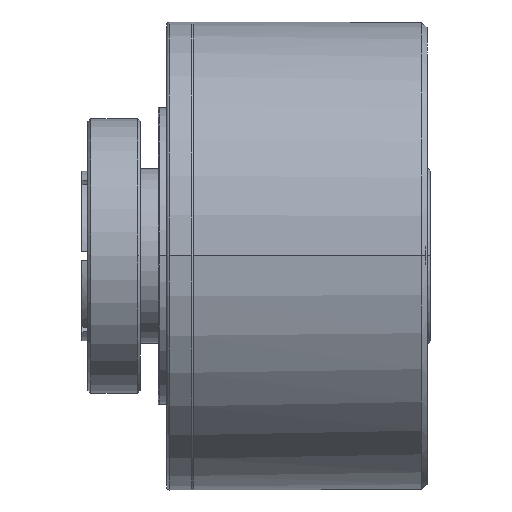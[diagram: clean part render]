
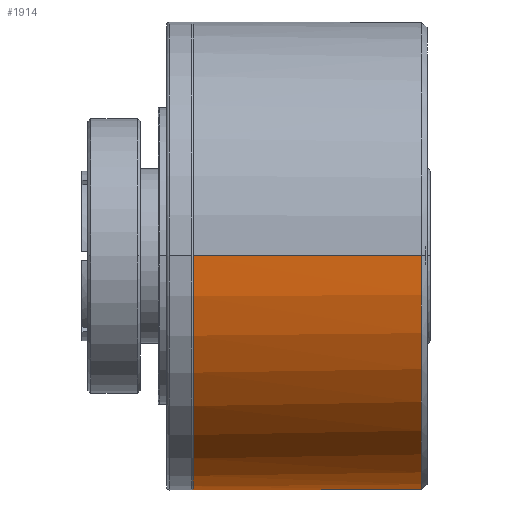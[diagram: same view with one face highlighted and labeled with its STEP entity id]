
A CAD part, top view. The second image highlights one B-rep face of the part: STEP entity #1914.
In plain terms, the highlighted cylindrical face has radius 40 mm (diameter 80 mm), a partial arc.
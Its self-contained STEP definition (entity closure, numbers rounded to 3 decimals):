
#1914=ADVANCED_FACE('',(#5602),#5603,.T.);
#5602=FACE_OUTER_BOUND('',#11202,.T.);
#5603=CYLINDRICAL_SURFACE('',#11203,40.);
#11202=EDGE_LOOP('',(#19523,#19524,#19525,#19526,#19527,#19528,#19529,#19530));
#11203=AXIS2_PLACEMENT_3D('',#19531,#19532,#19533);
#19523=ORIENTED_EDGE('',*,*,#35612,.F.);
#19524=ORIENTED_EDGE('',*,*,#35613,.F.);
#19525=ORIENTED_EDGE('',*,*,#35614,.F.);
#19526=ORIENTED_EDGE('',*,*,#35615,.F.);
#19527=ORIENTED_EDGE('',*,*,#35616,.F.);
#19528=ORIENTED_EDGE('',*,*,#35617,.F.);
#19529=ORIENTED_EDGE('',*,*,#35618,.F.);
#19530=ORIENTED_EDGE('',*,*,#35619,.T.);
#19531=CARTESIAN_POINT('',(28.208,0.,0.));
#19532=DIRECTION('',(1.0,0.,0.));
#19533=DIRECTION('',(0.,0.,-1.0));
#35612=EDGE_CURVE('',#42137,#42138,#42139,.T.);
#35613=EDGE_CURVE('',#42140,#42137,#42141,.T.);
#35614=EDGE_CURVE('',#42142,#42140,#42143,.T.);
#35615=EDGE_CURVE('',#42144,#42142,#42145,.T.);
#35616=EDGE_CURVE('',#42146,#42144,#42147,.T.);
#35617=EDGE_CURVE('',#42093,#42146,#42148,.T.);
#35618=EDGE_CURVE('',#42149,#42093,#42150,.T.);
#35619=EDGE_CURVE('',#42149,#42138,#42151,.T.);
#42093=VERTEX_POINT('',#51577);
#42137=VERTEX_POINT('',#51684);
#42138=VERTEX_POINT('',#51685);
#42139=LINE('',#51686,#51687);
#42140=VERTEX_POINT('',#51688);
#42141=CIRCLE('',#51689,40.);
#42142=VERTEX_POINT('',#51690);
#42143=B_SPLINE_CURVE_WITH_KNOTS('',3,(#51691,#51692,#51693,#51694,#51695,#51696,#51697,#51698,#51699,#51700,#51701,#51702,#51703,#51704,#51705,#51706,#51707,#51708,#51709),.UNSPECIFIED.,.F.,.F.,(4,3,3,3,3,3,4),(0.0,1.09,2.161,3.341,5.754,7.548,8.641),.UNSPECIFIED.);
#42144=VERTEX_POINT('',#51710);
#42145=ELLIPSE('',#51711,3280.244,40.);
#42146=VERTEX_POINT('',#51712);
#42147=B_SPLINE_CURVE_WITH_KNOTS('',3,(#51713,#51714,#51715,#51716,#51717,#51718,#51719,#51720,#51721,#51722),.UNSPECIFIED.,.F.,.F.,(4,3,3,4),(-2.785,-2.229,-0.857,-0.0),.UNSPECIFIED.);
#42148=CIRCLE('',#51723,40.);
#42149=VERTEX_POINT('',#51724);
#42150=LINE('',#51725,#51726);
#42151=CIRCLE('',#51727,40.);
#51577=CARTESIAN_POINT('',(58.,0.,40.));
#51684=CARTESIAN_POINT('',(22.,0.,-40.));
#51685=CARTESIAN_POINT('',(19.,0.,-40.));
#51686=CARTESIAN_POINT('',(28.208,0.,-40.));
#51687=VECTOR('',#72780,1.0);
#51688=CARTESIAN_POINT('',(22.,-12.604,-37.962));
#51689=AXIS2_PLACEMENT_3D('',#72781,#72782,#72783);
#51690=CARTESIAN_POINT('',(24.544,-18.408,-35.513));
#51691=CARTESIAN_POINT('',(24.544,-18.408,-35.513));
#51692=CARTESIAN_POINT('',(24.181,-18.413,-35.51));
#51693=CARTESIAN_POINT('',(23.811,-18.36,-35.538));
#51694=CARTESIAN_POINT('',(23.466,-18.256,-35.591));
#51695=CARTESIAN_POINT('',(23.127,-18.154,-35.643));
#51696=CARTESIAN_POINT('',(22.808,-18.002,-35.721));
#51697=CARTESIAN_POINT('',(22.522,-17.811,-35.816));
#51698=CARTESIAN_POINT('',(22.207,-17.6,-35.921));
#51699=CARTESIAN_POINT('',(21.935,-17.345,-36.045));
#51700=CARTESIAN_POINT('',(21.711,-17.056,-36.181));
#51701=CARTESIAN_POINT('',(21.252,-16.466,-36.46));
#51702=CARTESIAN_POINT('',(21.006,-15.75,-36.777));
#51703=CARTESIAN_POINT('',(21.,-15.022,-37.072));
#51704=CARTESIAN_POINT('',(20.996,-14.482,-37.291));
#51705=CARTESIAN_POINT('',(21.124,-13.934,-37.498));
#51706=CARTESIAN_POINT('',(21.385,-13.438,-37.675));
#51707=CARTESIAN_POINT('',(21.544,-13.135,-37.783));
#51708=CARTESIAN_POINT('',(21.75,-12.853,-37.88));
#51709=CARTESIAN_POINT('',(22.,-12.604,-37.962));
#51710=CARTESIAN_POINT('',(55.544,-18.03,-35.706));
#51711=AXIS2_PLACEMENT_3D('',#72784,#72785,#72786);
#51712=CARTESIAN_POINT('',(58.,-17.005,-36.205));
#51713=CARTESIAN_POINT('',(58.,-17.005,-36.205));
#51714=CARTESIAN_POINT('',(57.877,-17.128,-36.147));
#51715=CARTESIAN_POINT('',(57.744,-17.242,-36.093));
#51716=CARTESIAN_POINT('',(57.601,-17.347,-36.043));
#51717=CARTESIAN_POINT('',(57.247,-17.606,-35.918));
#51718=CARTESIAN_POINT('',(56.837,-17.803,-35.82));
#51719=CARTESIAN_POINT('',(56.395,-17.917,-35.763));
#51720=CARTESIAN_POINT('',(56.118,-17.988,-35.727));
#51721=CARTESIAN_POINT('',(55.83,-18.027,-35.708));
#51722=CARTESIAN_POINT('',(55.544,-18.03,-35.706));
#51723=AXIS2_PLACEMENT_3D('',#72787,#72788,#72789);
#51724=CARTESIAN_POINT('',(19.,0.,40.));
#51725=CARTESIAN_POINT('',(28.208,0.,40.));
#51726=VECTOR('',#72790,1.0);
#51727=AXIS2_PLACEMENT_3D('',#72791,#72792,#72793);
#72780=DIRECTION('',(-1.0,0.,0.));
#72781=CARTESIAN_POINT('',(22.,0.,0.));
#72782=DIRECTION('',(1.0,0.,0.));
#72783=DIRECTION('',(0.,0.,-1.0));
#72784=CARTESIAN_POINT('',(1534.006,0.,0.));
#72785=DIRECTION('',(-0.012,1.,0.));
#72786=DIRECTION('',(-1.,-0.012,0.));
#72787=CARTESIAN_POINT('',(58.,0.,0.));
#72788=DIRECTION('',(1.0,0.,0.));
#72789=DIRECTION('',(0.,0.,-1.0));
#72790=DIRECTION('',(1.0,0.,0.));
#72791=CARTESIAN_POINT('',(19.,0.,0.));
#72792=DIRECTION('',(1.0,0.,0.));
#72793=DIRECTION('',(0.,0.,-1.0));
